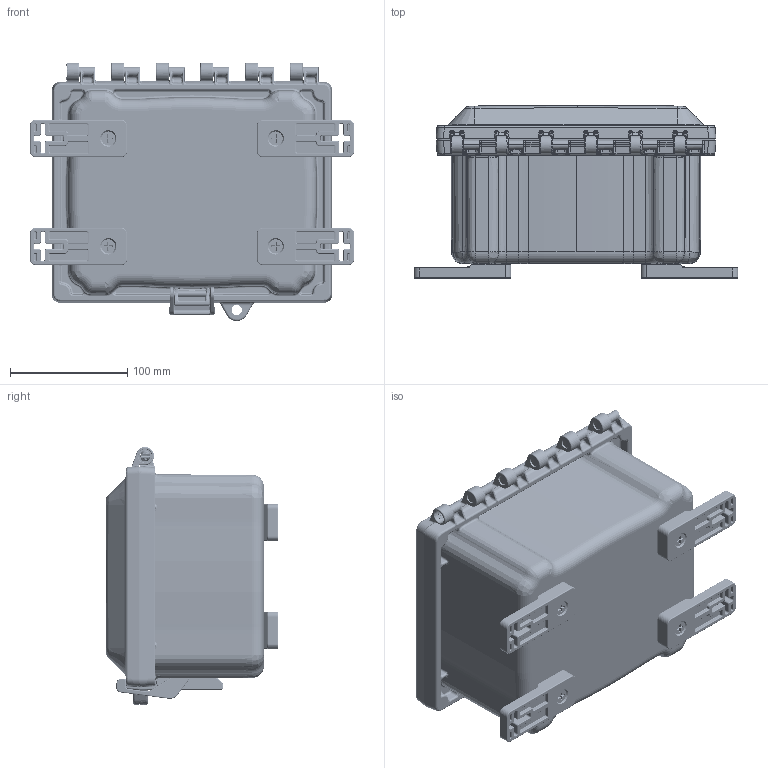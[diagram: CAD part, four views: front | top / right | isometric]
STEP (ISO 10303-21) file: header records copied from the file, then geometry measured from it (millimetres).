
FILE_DESCRIPTION((''),'2;1');
FILE_NAME('SCE-806PC_ASM','2017-02-24T',('dougp'),('SAGINAW CONTROL & ENGINEERING'),'PRO/ENGINEER BY PARAMETRIC TECHNOLOGY CORPORATION, 2012070','PRO/ENGINEER BY PARAMETRIC TECHNOLOGY CORPORATION, 2012070','');
FILE_SCHEMA(('AUTOMOTIVE_DESIGN { 1 0 10303 214 1 1 1 1 }'));
Length unit declared in the file: inch
Products named in the file (12): RMAHFOOT-001; RMAHINS10-32UNF; RMSC1-4-20X_5FLPH; LATCH_BOTTOM; LATCH_TOP; RMAHLATCH-001_ASM; RMAHINS1-4-20UNC; WPPC864BOX; RMGAS_WPPC864CVR; WPPC864CVR; WPPC864U_ASM; SCE-806PC_ASM
Assembly tree (27 placements, depth 3):
  SCE-806PC_ASM
    RMAHFOOT-001  x4
    RMAHINS10-32UNF  x8
    RMSC1-4-20X_5FLPH  x4
    RMAHLATCH-001_ASM
      LATCH_BOTTOM
      LATCH_TOP
    RMAHINS1-4-20UNC  x4
    WPPC864BOX
    WPPC864U_ASM
      RMGAS_WPPC864CVR
      WPPC864CVR
Bounding box: 276.23 x 147.27 x 220.38 mm (x, y, z)
Volume: 919236.2 mm3; surface area: 493267.4 mm2
Topology: 25 solids, 25 shells, 4640 faces, 11066 edges, 6506 vertices
Faces by surface type: cylinder 1662, bspline 1025, plane 972, torus 532, cone 397, sphere 52
Entity records: 165512 total; most frequent: CARTESIAN_POINT 67730, ORIENTED_EDGE 15816, DIRECTION 13548, PRESENTATION_STYLE_ASSIGNMENT 8268, STYLED_ITEM 7917, CURVE_STYLE 7908, EDGE_CURVE 7908, AXIS2_PLACEMENT_3D 5412
